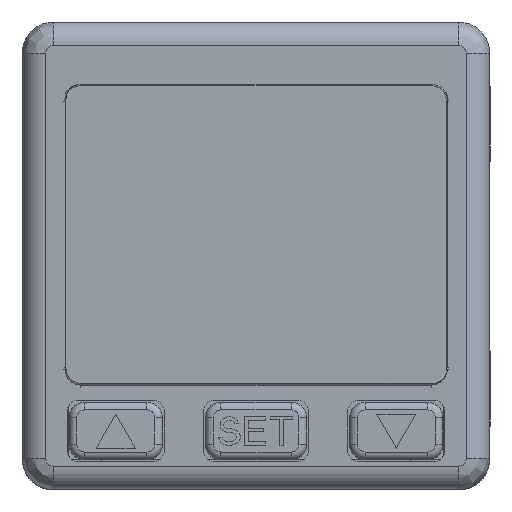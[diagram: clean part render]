
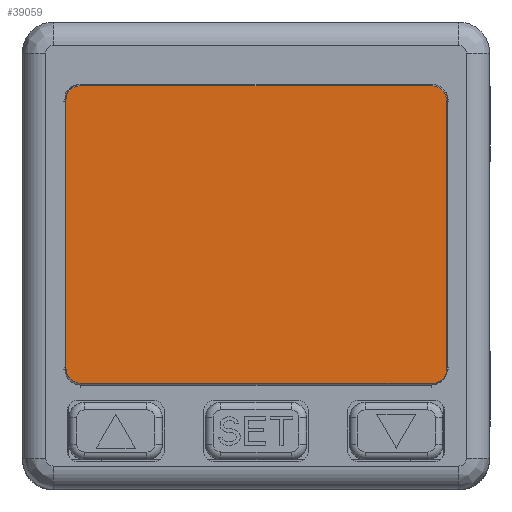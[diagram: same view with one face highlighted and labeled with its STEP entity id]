
A CAD part, top view. The second image highlights one B-rep face of the part: STEP entity #39059.
In plain terms, the highlighted planar face has unit normal (0, 0, 1).
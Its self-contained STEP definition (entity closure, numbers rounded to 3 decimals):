
#2480=CARTESIAN_POINT('',(11.25,10.992,24.97));
#2481=CARTESIAN_POINT('',(11.354,10.992,24.97));
#2482=CARTESIAN_POINT('',(11.546,10.963,24.97));
#2483=CARTESIAN_POINT('',(11.797,10.858,24.97));
#2484=CARTESIAN_POINT('',(12.016,10.695,24.97));
#2485=CARTESIAN_POINT('',(12.138,10.544,24.97));
#2486=CARTESIAN_POINT('',(12.191,10.454,24.97));
#2488=CARTESIAN_POINT('',(11.3,10.,24.97));
#2489=DIRECTION('',(0.,0.,1.));
#2490=DIRECTION('',(1.,0.,0.));
#2491=AXIS2_PLACEMENT_3D('',#2488,#2489,#2490);
#2493=DIRECTION('',(0.,1.,0.));
#2494=VECTOR('',#2493,17.2);
#2495=CARTESIAN_POINT('',(12.3,-7.2,24.97));
#2496=LINE('',#2495,#2494);
#2497=CARTESIAN_POINT('',(11.3,-7.2,24.97));
#2498=DIRECTION('',(0.,0.,1.));
#2499=DIRECTION('',(0.,-1.,0.));
#2500=AXIS2_PLACEMENT_3D('',#2497,#2498,#2499);
#2502=DIRECTION('',(1.,0.,0.));
#2503=VECTOR('',#2502,22.5);
#2504=CARTESIAN_POINT('',(-11.2,-8.2,24.97));
#2505=LINE('',#2504,#2503);
#2506=CARTESIAN_POINT('',(-11.2,-7.2,24.97));
#2507=DIRECTION('',(0.,0.,1.));
#2508=DIRECTION('',(-1.,0.,0.));
#2509=AXIS2_PLACEMENT_3D('',#2506,#2507,#2508);
#2511=DIRECTION('',(0.,-1.,0.));
#2512=VECTOR('',#2511,17.2);
#2513=CARTESIAN_POINT('',(-12.2,10.,24.97));
#2514=LINE('',#2513,#2512);
#2515=CARTESIAN_POINT('',(-11.2,10.,24.97));
#2516=DIRECTION('',(0.,0.,1.));
#2517=DIRECTION('',(-0.171,0.985,0.));
#2518=AXIS2_PLACEMENT_3D('',#2515,#2516,#2517);
#2520=CARTESIAN_POINT('',(-11.371,10.985,24.97));
#2521=CARTESIAN_POINT('',(-11.331,10.99,24.97));
#2522=CARTESIAN_POINT('',(-11.29,10.992,24.97));
#2523=CARTESIAN_POINT('',(-11.25,10.992,24.97));
#2525=DIRECTION('',(-1.,0.,0.));
#2526=VECTOR('',#2525,22.5);
#2527=CARTESIAN_POINT('',(11.25,10.992,24.97));
#2528=LINE('',#2527,#2526);
#33108=CARTESIAN_POINT('',(-12.2,10.,24.97));
#33109=CARTESIAN_POINT('',(-12.2,-7.2,24.97));
#33110=VERTEX_POINT('',#33108);
#33111=VERTEX_POINT('',#33109);
#33112=CARTESIAN_POINT('',(-11.2,-8.2,24.97));
#33113=VERTEX_POINT('',#33112);
#33114=CARTESIAN_POINT('',(11.3,-8.2,24.97));
#33115=VERTEX_POINT('',#33114);
#33116=CARTESIAN_POINT('',(12.3,-7.2,24.97));
#33117=VERTEX_POINT('',#33116);
#33118=CARTESIAN_POINT('',(12.3,10.,24.97));
#33119=VERTEX_POINT('',#33118);
#34722=VERTEX_POINT('',#2480);
#34723=VERTEX_POINT('',#2486);
#34724=CARTESIAN_POINT('',(-11.25,10.992,24.97));
#34725=VERTEX_POINT('',#34724);
#34726=VERTEX_POINT('',#2520);
#39034=CARTESIAN_POINT('',(0.05,2.6,24.97));
#39035=DIRECTION('',(0.,0.,1.));
#39036=DIRECTION('',(1.,0.,0.));
#39037=AXIS2_PLACEMENT_3D('',#39034,#39035,#39036);
#39038=PLANE('',#39037);
#39039=ORIENTED_EDGE('',*,*,#39022,.T.);
#39040=ORIENTED_EDGE('',*,*,#38964,.F.);
#39042=ORIENTED_EDGE('',*,*,#39041,.F.);
#39044=ORIENTED_EDGE('',*,*,#39043,.F.);
#39046=ORIENTED_EDGE('',*,*,#39045,.F.);
#39048=ORIENTED_EDGE('',*,*,#39047,.F.);
#39050=ORIENTED_EDGE('',*,*,#39049,.F.);
#39052=ORIENTED_EDGE('',*,*,#39051,.F.);
#39054=ORIENTED_EDGE('',*,*,#39053,.T.);
#39056=ORIENTED_EDGE('',*,*,#39055,.F.);
#39057=EDGE_LOOP('',(#39039,#39040,#39042,#39044,#39046,#39048,#39050,#39052,
#39054,#39056));
#39058=FACE_OUTER_BOUND('',#39057,.F.);
#39059=ADVANCED_FACE('',(#39058),#39038,.T.);
#2487=B_SPLINE_CURVE_WITH_KNOTS('',3,(#2480,#2481,#2482,#2483,#2484,#2485,
#2486),.UNSPECIFIED.,.F.,.F.,(4,1,1,1,4),(0.,0.25,0.5,0.75,1.),
.UNSPECIFIED.);
#2492=CIRCLE('',#2491,1.);
#2501=CIRCLE('',#2500,1.);
#2510=CIRCLE('',#2509,1.);
#2519=CIRCLE('',#2518,1.);
#2524=B_SPLINE_CURVE_WITH_KNOTS('',3,(#2520,#2521,#2522,#2523),.UNSPECIFIED.,
.F.,.F.,(4,4),(0.,1.),.UNSPECIFIED.);
#38964=EDGE_CURVE('',#33119,#34723,#2492,.T.);
#39022=EDGE_CURVE('',#34722,#34723,#2487,.T.);
#39041=EDGE_CURVE('',#33117,#33119,#2496,.T.);
#39043=EDGE_CURVE('',#33115,#33117,#2501,.T.);
#39045=EDGE_CURVE('',#33113,#33115,#2505,.T.);
#39047=EDGE_CURVE('',#33111,#33113,#2510,.T.);
#39049=EDGE_CURVE('',#33110,#33111,#2514,.T.);
#39051=EDGE_CURVE('',#34726,#33110,#2519,.T.);
#39053=EDGE_CURVE('',#34726,#34725,#2524,.T.);
#39055=EDGE_CURVE('',#34722,#34725,#2528,.T.);
